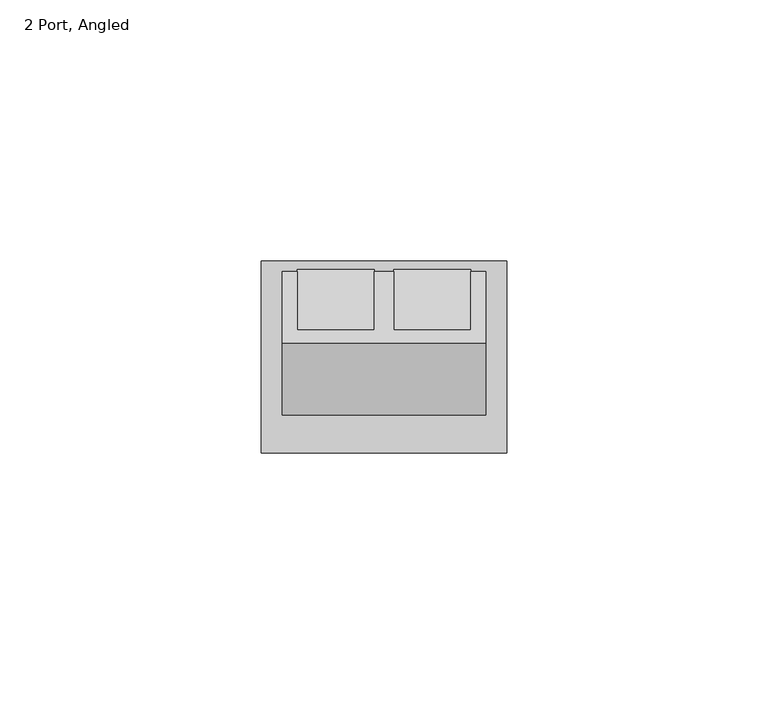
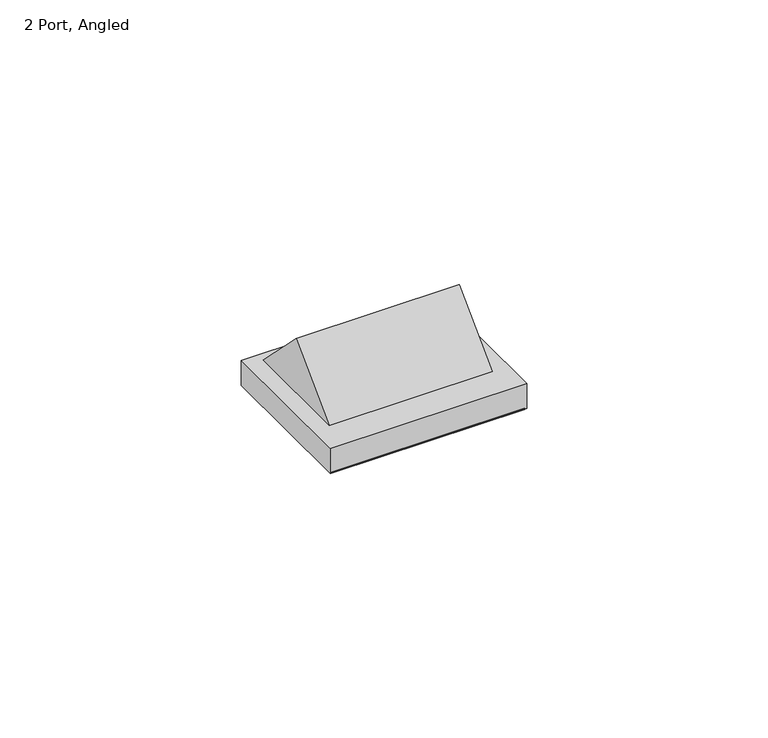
"""IFC4 building model written with IfcOpenShell, lengths in millimetres: electric appliance geometry, Data_Device-Work_Area-Leviton-MOS-Adapter-QuickPort : 2 Port, Angled."""

import ifcopenshell
import ifcopenshell.guid

model = None  # the IFC model being written
_history = None  # IfcOwnerHistory: only IFC2X3 demands one
_inside = {}  # id of a spatial element -> (the spatial element, [elements in it])
_under = {}  # id of a project, library or spatial element -> (it, [spatial elements below it])
_declared = {}  # id of a project -> (the project, [libraries it declares])
_typed = {}  # id of a type object -> (the type object, [elements of that type])
_made_of = {}  # id of a material, layer set ... -> (it, [elements and type objects made of it])


def new_model(schema):
    """Start an empty IFC model of exactly this schema.

    Asked for "IFC4X3", IfcOpenShell would pick the latest addendum, in which some entities
    have other attributes; the version numbers below select the first issue.
    IFC2X3 requires an IfcOwnerHistory on every rooted entity: one is made here for all.
    """
    global model, _history
    if schema == "IFC4X3":
        model = ifcopenshell.file(schema_version=(4, 3, 0, 0))
    else:
        model = ifcopenshell.file(schema=schema)
    _inside.clear()
    _under.clear()
    _declared.clear()
    _typed.clear()
    _made_of.clear()
    _history = None
    if model.schema == "IFC2X3":
        org = make("IfcOrganization", Name="unknown")
        user = make(
            "IfcPersonAndOrganization",
            ThePerson=make("IfcPerson", FamilyName="unknown"),
            TheOrganization=org,
        )
        app = make(
            "IfcApplication",
            ApplicationDeveloper=org,
            Version="unknown",
            ApplicationFullName="unknown",
            ApplicationIdentifier="unknown",
        )
        _history = make(
            "IfcOwnerHistory",
            OwningUser=user,
            OwningApplication=app,
            ChangeAction="ADDED",
            CreationDate=0,
        )
    return model


def make(cls, **values):
    """One entity of the class cls with the attributes given. An attribute that is None is left unset."""
    return model.create_entity(
        cls, **{name: value for name, value in values.items() if value is not None}
    )


def rooted(cls, **values):
    """An entity with a GlobalId (a new one), such as an element, a storey or a relation."""
    return make(cls, GlobalId=ifcopenshell.guid.new(), OwnerHistory=_history, **values)


def si_unit(unit_type, name, prefix=None):
    """IfcSIUnit, for example si_unit("LENGTHUNIT", "METRE", prefix="MILLI")."""
    return make("IfcSIUnit", UnitType=unit_type, Prefix=prefix, Name=name)


def assignment(units):
    """IfcUnitAssignment: the units of a project."""
    return None if units is None else make("IfcUnitAssignment", Units=units)


def point(xyz):
    """IfcCartesianPoint."""
    return None if xyz is None else make("IfcCartesianPoint", Coordinates=xyz)


def direction(xyz):
    """IfcDirection."""
    return None if xyz is None else make("IfcDirection", DirectionRatios=xyz)


def frame(location, z_axis=None, x_axis=None):
    """IfcAxis2Placement3D, a coordinate frame: its origin and axes. An axis left out is left unset."""
    return make(
        "IfcAxis2Placement3D",
        Location=point(location),
        Axis=direction(z_axis),
        RefDirection=direction(x_axis),
    )


def origin():
    """The frame at (0, 0, 0) with its axes left unset."""
    return frame((0.0, 0.0, 0.0))


def place(relative_to, where):
    """IfcLocalPlacement: puts the frame where relative to a parent placement (None: the world)."""
    return make(
        "IfcLocalPlacement", PlacementRelTo=relative_to, RelativePlacement=where
    )


def context(
    kind, dimensions, precision=None, world=None, true_north=None, identifier=None
):
    """IfcGeometricRepresentationContext, for example the 3D "Model" context."""
    return make(
        "IfcGeometricRepresentationContext",
        ContextIdentifier=identifier,
        ContextType=kind,
        CoordinateSpaceDimension=dimensions,
        Precision=precision,
        WorldCoordinateSystem=world,
        TrueNorth=true_north,
    )


def project(units=None, contexts=None):
    """IfcProject with its units and contexts."""
    return rooted(
        "IfcProject",
        Name="project",
        RepresentationContexts=contexts,
        UnitsInContext=assignment(units),
    )


def spatial(cls, under=None, at=None, **own):
    """A site, building, storey or space (cls), placed at a placement, below another one or the project."""
    s = rooted(cls, ObjectPlacement=at, **own)
    if under is not None:
        _under.setdefault(under.id(), (under, []))[1].append(s)
    return s


def polyline(points):
    """IfcPolyline through the points."""
    return make("IfcPolyline", Points=[point(p) for p in points])


def outline(outer, holes=None, kind="AREA"):
    """IfcArbitraryClosedProfileDef: a profile drawn as a closed curve; with holes, ...WithVoids."""
    if holes is None:
        return make("IfcArbitraryClosedProfileDef", ProfileType=kind, OuterCurve=outer)
    return make(
        "IfcArbitraryProfileDefWithVoids",
        ProfileType=kind,
        OuterCurve=outer,
        InnerCurves=holes,
    )


def extrude(swept, where, along, depth):
    """IfcExtrudedAreaSolid: the profile swept, set in the frame where, extruded along a direction by depth."""
    return make(
        "IfcExtrudedAreaSolid",
        SweptArea=swept,
        Position=where,
        ExtrudedDirection=direction(along),
        Depth=depth,
    )


def faces_of(points, faces, orient=None, outer=None):
    """IfcFace entities. A face is a list of loops; a loop is a list of indices into points, from 0.

    orient and outer hold one flag for each loop. By default every Orientation is true, the
    first loop of a face is its IfcFaceOuterBound and the others are IfcFaceBound.
    """
    made = []
    for i, loops in enumerate(faces):
        bounds = []
        for j, loop in enumerate(loops):
            is_outer = j == 0 if outer is None else outer[i][j]
            bounds.append(
                make(
                    "IfcFaceOuterBound" if is_outer else "IfcFaceBound",
                    Bound=make("IfcPolyLoop", Polygon=[points[k] for k in loop]),
                    Orientation=True if orient is None else orient[i][j],
                )
            )
        made.append(make("IfcFace", Bounds=bounds))
    return made


def faceted_brep(points, faces, orient=None, outer=None, voids=None):
    """IfcFacetedBrep: a solid bounded by flat faces; with voids (closed shells), ...WithVoids."""
    shared = [point(p) for p in points]
    hull = make("IfcClosedShell", CfsFaces=faces_of(shared, faces, orient, outer))
    if voids is None:
        return make("IfcFacetedBrep", Outer=hull)
    return make(
        "IfcFacetedBrepWithVoids",
        Outer=hull,
        Voids=[
            make(cls, CfsFaces=faces_of(shared, fs, o, b)) for cls, fs, o, b in voids
        ],
    )


def shape(context_of_items, identifier, shape_type, items):
    """IfcShapeRepresentation: the items that make up one representation, for example the "Body"."""
    return make(
        "IfcShapeRepresentation",
        ContextOfItems=context_of_items,
        RepresentationIdentifier=identifier,
        RepresentationType=shape_type,
        Items=items,
    )


def source(mapping_origin, context_of_items, identifier, shape_type, items):
    """IfcRepresentationMap: a shape defined once, which mapped items show again and again."""
    return make(
        "IfcRepresentationMap",
        MappingOrigin=mapping_origin,
        MappedRepresentation=shape(context_of_items, identifier, shape_type, items),
    )


def transform(
    local_origin,
    x_axis=None,
    y_axis=None,
    z_axis=None,
    scale=None,
    scale2=None,
    scale3=None,
    uniform=True,
):
    """IfcCartesianTransformationOperator3D, or its non-uniform kind. x_axis, y_axis, z_axis: its Axis1, 2, 3."""
    if uniform:
        return make(
            "IfcCartesianTransformationOperator3D",
            Axis1=direction(x_axis),
            Axis2=direction(y_axis),
            LocalOrigin=point(local_origin),
            Scale=scale,
            Axis3=direction(z_axis),
        )
    return make(
        "IfcCartesianTransformationOperator3DnonUniform",
        Axis1=direction(x_axis),
        Axis2=direction(y_axis),
        LocalOrigin=point(local_origin),
        Scale=scale,
        Axis3=direction(z_axis),
        Scale2=scale2,
        Scale3=scale3,
    )


def mapped(mapping_source, mapping_target):
    """IfcMappedItem: shows the shape of a source again, moved by a transform."""
    return make(
        "IfcMappedItem", MappingSource=mapping_source, MappingTarget=mapping_target
    )


def made_of(thing, what):
    """Note that an element or type object is made of a material, layer set ...; save() writes the relation."""
    if what is not None:
        _made_of.setdefault(what.id(), (what, []))[1].append(thing)
    return thing


def element(
    cls,
    number,
    at=None,
    inside=None,
    cuts=None,
    type_object=None,
    material=None,
    context=None,
    identifier="Body",
    shape_type=None,
    held_by="IfcProductDefinitionShape",
    body=None,
    shapes=None,
    **own,
):
    """One element of the class cls, such as IfcWall. Its Tag is "e" and its number.

    at: its placement. inside: the storey or other place that contains it. cuts: it is an
    opening in that element (IfcRelVoidsElement). A single representation is given by context,
    identifier, shape_type and body (its items); several are given by shapes. held_by: the class
    of the entity that holds the representations. save() writes the other relations.
    """
    e = rooted(cls, Tag="e%d" % number, ObjectPlacement=at, **own)
    if body is not None:
        shapes = [shape(context, identifier, shape_type, body)]
    if shapes is not None:
        e.Representation = make(held_by, Representations=shapes)
    if inside is not None:
        _inside.setdefault(inside.id(), (inside, []))[1].append(e)
    if cuts is not None:
        rooted(
            "IfcRelVoidsElement", RelatingBuildingElement=cuts, RelatedOpeningElement=e
        )
    if type_object is not None:
        _typed.setdefault(type_object.id(), (type_object, []))[1].append(e)
    return made_of(e, material)


def aggregate(whole, parts):
    """IfcRelAggregates: a whole, such as a stair, and the parts it consists of."""
    return rooted("IfcRelAggregates", RelatingObject=whole, RelatedObjects=parts)


def save(model, path):
    """Write the relations noted so far, then the file.

    IfcRelAggregates (storeys below a building ...), IfcRelContainedInSpatialStructure (elements
    in a storey), IfcRelDefinesByType, IfcRelAssociatesMaterial and IfcRelDeclares: one each for
    every whole, place, type object, material and project.
    """
    for whole, parts in _under.values():
        aggregate(whole, parts)
    for where, things in _inside.values():
        rooted(
            "IfcRelContainedInSpatialStructure",
            RelatedElements=things,
            RelatingStructure=where,
        )
    for kind, things in _typed.values():
        rooted("IfcRelDefinesByType", RelatedObjects=things, RelatingType=kind)
    for what, things in _made_of.values():
        rooted("IfcRelAssociatesMaterial", RelatedObjects=things, RelatingMaterial=what)
    for by, libraries in _declared.values():
        rooted("IfcRelDeclares", RelatingContext=by, RelatedDefinitions=libraries)
    model.write(path)


def electric_appliance_2_port_angled_974c8690(model_context):
    return source(origin(), model_context, "Body", "SolidModel", [
        extrude(outline(polyline([(0.2159, 20.1295), (0.2159, -16.0909), (-46.2661, -16.0909), (-46.2661, 20.1295), (0.2159, 20.1295)])), frame((0.0, 0.0, -6.35), z_axis=(0.0, 0.0, 1.0), x_axis=(1.0, 0.0, 0.0)), (0.0, 0.0, 1.0), 0.254),
        faceted_brep([(-24.8539, -4.0506396, 0.254), (-24.8539, 7.1504302, 11.4550698), (-24.8539, 18.3515, 0.254), (-39.5859, 7.1504302, 11.4550698), (-39.5859, -4.0506396, 0.254), (-39.5859, 18.3515, 0.254), (-6.4643, -4.0506396, 0.254), (-6.4643, 7.1504302, 11.4550698), (-6.4643, 18.3515, 0.254), (-21.1963, 7.1504302, 11.4550698), (-21.1963, -4.0506396, 0.254), (-21.1963, 18.3515, 0.254), (-3.5179, 4.6355, 13.97), (-3.5179, -9.0805, 0.254), (-3.5179, 18.3515, 0.254), (-42.5323, 4.6355, 13.97), (-42.5323, 18.3515, 0.254), (-42.5323, -9.0805, 0.254)], [[[0, 1, 2]], [[3, 4, 5]], [[1, 0, 4, 3]], [[6, 7, 8]], [[9, 10, 11]], [[7, 6, 10, 9]], [[12, 13, 14]], [[15, 16, 17]], [[13, 12, 15, 17]], [[14, 13, 17, 16, 5, 4, 0, 2, 11, 10, 6, 8]], [[12, 14, 8, 7, 9, 11, 2, 1, 3, 5, 16, 15]]]),
        extrude(outline(polyline([(16.0715661, 0.0), (16.0715661, -16.5100001), (1.3395661, -16.5100001), (1.3395661, 0.0), (16.0715661, 0.0)])), frame((-40.9254661, 7.1504302, -11.8935961), z_axis=(0.0, 0.7071067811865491, 0.7071067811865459), x_axis=(1.0, 0.0, 0.0)), (0.0, 0.0, 1.0), 16.51),
        extrude(outline(polyline([(34.4611661, 0.0), (34.4611661, -16.5100001), (19.7291661, -16.5100001), (19.7291661, 0.0), (34.4611661, 0.0)])), frame((-40.9254661, 7.1504302, -11.8935961), z_axis=(0.0, 0.7071067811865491, 0.7071067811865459), x_axis=(1.0, 0.0, 0.0)), (0.0, 0.0, 1.0), 16.51),
        faceted_brep([(-39.5859, 18.8247631, -0.2192631), (-24.8539, 18.8247631, -0.2192631), (-24.8539, 18.3515, 0.254), (-39.5859, 18.3515, 0.254), (-21.1963, 18.8247631, -0.2192631), (-6.4643, 18.8247631, -0.2192631), (-6.4643, 18.3515, 0.254), (-21.1963, 18.3515, 0.254), (-39.5859, -4.5239028, -0.2192631), (-24.8539, -4.5239028, -0.2192631), (-24.8539, 1.3528341, -6.096), (-39.5859, 1.3528341, -6.096), (-21.1963, -4.5239028, -0.2192631), (-6.4643, -4.5239028, -0.2192631), (-6.4643, 1.3528341, -6.096), (-21.1963, 1.3528341, -6.096), (-24.8539, 12.9480263, -6.096), (-24.8539, -4.0506396, 0.254), (-39.5859, 12.9480263, -6.096), (-39.5859, -4.0506396, 0.254), (-6.4643, 12.9480263, -6.096), (-6.4643, -4.0506396, 0.254), (-21.1963, 12.9480263, -6.096), (-21.1963, -4.0506396, 0.254), (0.4699, 20.3835, 0.254), (-46.5201, 20.3835, 0.254), (-46.5201, -16.3449, 0.254), (0.4699, -16.3449, 0.254), (0.4699, 20.3835, -6.096), (0.4699, -16.3449, -6.096), (-46.5201, -16.3449, -6.096), (-46.5201, 20.3835, -6.096)], [[[0, 1, 2, 3]], [[4, 5, 6, 7]], [[8, 9, 10, 11]], [[12, 13, 14, 15]], [[2, 1, 16, 10, 9, 17]], [[1, 0, 18, 16]], [[0, 3, 19, 8, 11, 18]], [[9, 8, 19, 17]], [[6, 5, 20, 14, 13, 21]], [[5, 4, 22, 20]], [[4, 7, 23, 12, 15, 22]], [[13, 12, 23, 21]], [[24, 25, 26, 27], [3, 2, 17, 19], [7, 6, 21, 23]], [[28, 29, 30, 31], [11, 10, 16, 18], [15, 14, 20, 22]], [[25, 24, 28, 31]], [[26, 25, 31, 30]], [[27, 26, 30, 29]], [[24, 27, 29, 28]]]),
    ])


if __name__ == "__main__":
    model = new_model("IFC4")
    model_context = context("Model", 3, world=origin())
    ifc_project = project(units=[si_unit("LENGTHUNIT", "METRE", prefix="MILLI")], contexts=[model_context])
    site = spatial("IfcSite", under=ifc_project)
    building = spatial("IfcBuilding", under=site)
    placement = place(None, origin())
    electric_appliance_2_port_angled_shape = electric_appliance_2_port_angled_974c8690(model_context)
    element("IfcElectricAppliance", 1, ObjectType="Data_Device-Work_Area-Leviton-MOS-Adapter-QuickPort : 2 Port, Angled", at=placement, inside=building, context=model_context, shape_type="MappedRepresentation", body=[
        mapped(electric_appliance_2_port_angled_shape, transform((0.0, 0.0, 0.0), x_axis=(1.0, 0.0, 0.0), y_axis=(0.0, 1.0, 0.0), z_axis=(0.0, 0.0, 1.0))),
    ])
    save(model, "model.ifc")
